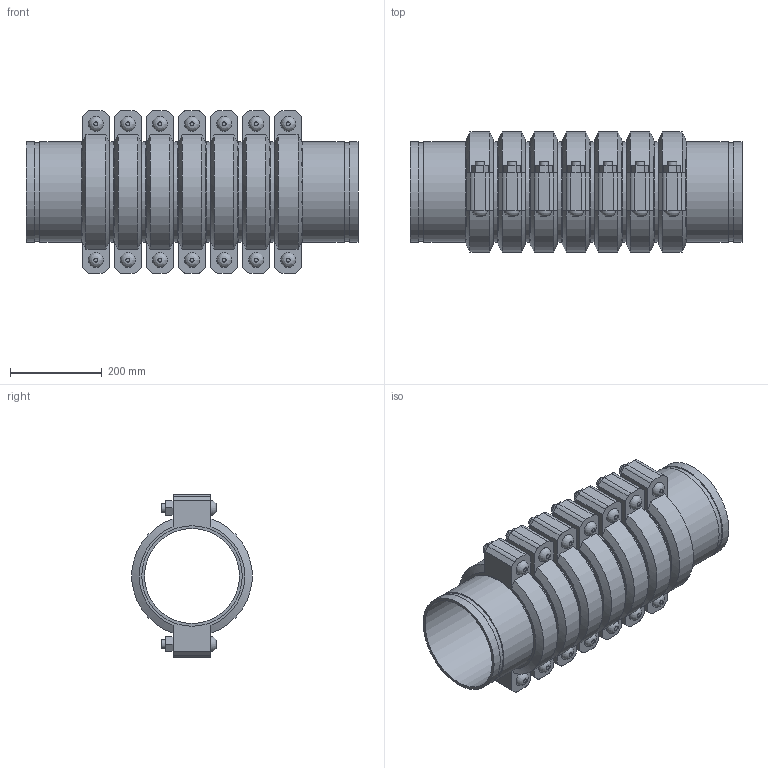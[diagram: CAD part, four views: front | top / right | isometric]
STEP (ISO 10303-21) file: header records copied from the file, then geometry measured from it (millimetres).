
FILE_DESCRIPTION(/* description */ ('VIC EXPANSION JOINT 7 COUPLINGS COMPRESSED STYLE 155 (OGS)','CAx-IF Rec.Pracs.---Representation and Presentation of Product Manufacturing Information (PMI)---4.0---2014-10-13'),/* implementation_level */ '2;1');
FILE_NAME(/* name */ 'C:\Users\kkamble\AppData\Roaming\Autodesk\ApplicationPlugins\Victaulic.Temp\A262\Victaulic_IPS_Expansion Joint_Compressed_7 Couplings_Style 155 (OGS)_8 (200).stp',/* time_stamp */ '2021-06-27T00:34:26+02:00',/* author */ ('kkamble'),/* organization */ ('Victaulic'),/* preprocessor_version */ 'ST-DEVELOPER v17.2',/* originating_system */ 'Autodesk Inventor 2019',/* authorisation */ '');
FILE_SCHEMA (('AP242_MANAGED_MODEL_BASED_3D_ENGINEERING_MIM_LF { 1 0 10303 442 1 1 4 }'));
Length unit declared in the file: inch
Products named in the file (4): 155-08.0; Nipple-08.0; Nipple-08.0_1; 075_7_Coup-08.0
Assembly tree (15 placements, depth 2):
  155-08.0
    Nipple-08.0  x2
    Nipple-08.0_1  x6
    075_7_Coup-08.0  x7
Bounding box: 723.9 x 261.72 x 354.84 mm (x, y, z)
Volume: 12218613.9 mm3; surface area: 2268627.2 mm2
Topology: 15 solids, 29 shells, 495 faces, 1171 edges, 822 vertices
Faces by surface type: plane 300, cylinder 153, cone 28, bspline 14
Full cylindrical faces by diameter (mm): 19.05 x28, 21.209 x14, 206.985 x8, 212.725 x7, 214.401 x16, 219.075 x38
Entity records: 2842 total; most frequent: CARTESIAN_POINT 499, DIRECTION 473, ORIENTED_EDGE 386, EDGE_CURVE 193, AXIS2_PLACEMENT_3D 190, VERTEX_POINT 138, EDGE_LOOP 107, LINE 93
